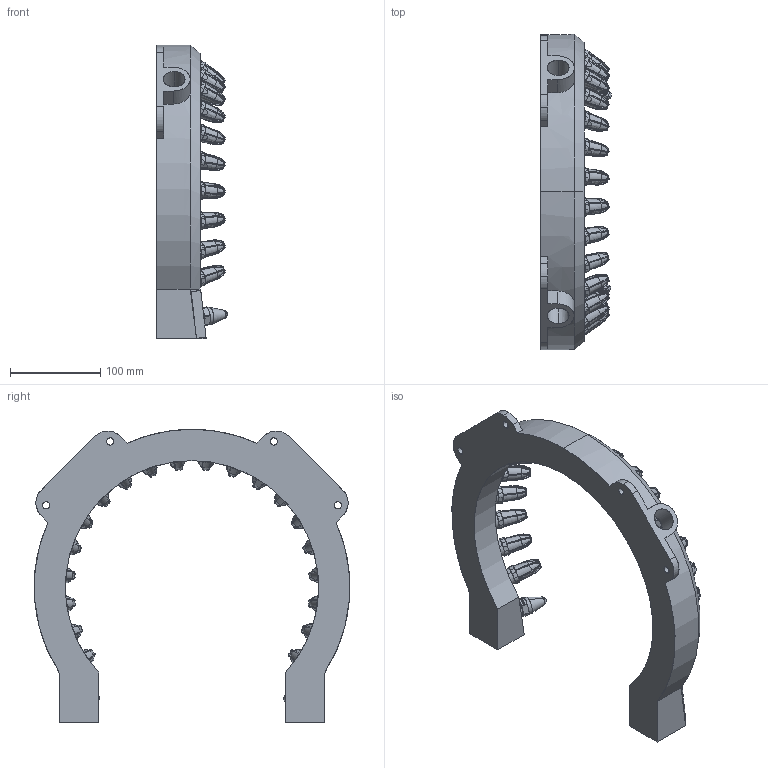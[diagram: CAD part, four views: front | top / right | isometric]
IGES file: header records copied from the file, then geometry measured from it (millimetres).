
Start section: SolidWorks IGES file using analytic representation for surfaces
Global section: file name: G:\Silvent\Ritningar\Övrigt\IGES\Nya sedan 2007-05-11\Silvent 473+L.IGS; native system: SolidWorks 2006 by SolidWorks Corporation; preprocessor: SolidWorks 2006 by SolidWorks Corporation; author: SilvRaTi; date: 080121.092337; units: millimetre
Bounding box: 78.49 x 349.02 x 324.65 mm (x, y, z)
Surface area: 316781.7 mm2 (no closed solid volume)
Topology: 0 solids, 0 shells, 1958 faces, 24338 edges, 24334 vertices
Faces by surface type: bspline 993, revolution 965
